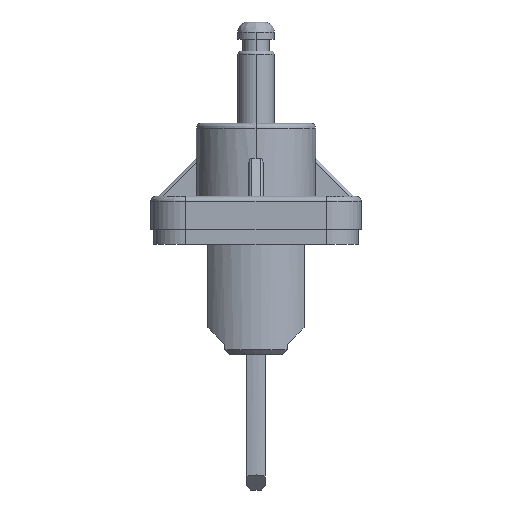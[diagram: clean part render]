
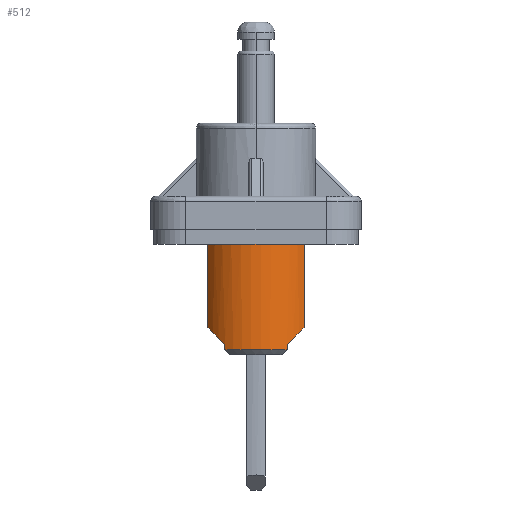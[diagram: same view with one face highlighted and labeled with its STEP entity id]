
A CAD part, left-side view. The second image highlights one B-rep face of the part: STEP entity #512.
In plain terms, the highlighted cylindrical face has radius 5.9 mm (diameter 11.8 mm), a partial arc.
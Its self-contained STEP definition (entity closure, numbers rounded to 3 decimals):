
#50 = DIRECTION ( 'NONE',  ( 0., 0., 1. ) ) ;
#157 = CARTESIAN_POINT ( 'NONE',  ( -4.23, -0.253, -11.05 ) ) ;
#238 = AXIS2_PLACEMENT_3D ( 'NONE', #6282, #3240, #1159 ) ;
#305 =( BOUNDED_CURVE ( )  B_SPLINE_CURVE ( 3, ( #1971, #4563, #1992, #5581 ),
 .UNSPECIFIED., .F., .T. ) 
 B_SPLINE_CURVE_WITH_KNOTS ( ( 4, 4 ),
 ( 5.266, 5.663 ),
 .UNSPECIFIED. ) 
 CURVE ( )  GEOMETRIC_REPRESENTATION_ITEM ( )  RATIONAL_B_SPLINE_CURVE ( ( 1., 0.987, 0.987, 1. ) ) 
 REPRESENTATION_ITEM ( '' )  );
#348 = VECTOR ( 'NONE', #50, 1000. ) ;
#390 = CARTESIAN_POINT ( 'NONE',  ( -9.25, 2.847, -11.55 ) ) ;
#509 = VERTEX_POINT ( 'NONE', #5758 ) ;
#512 = ADVANCED_FACE ( 'NONE', ( #2919 ), #5457, .T. ) ;
#673 = DIRECTION ( 'NONE',  ( 1., 0., 0. ) ) ;
#680 = CARTESIAN_POINT ( 'NONE',  ( -7.661, -5.053, -8.85 ) ) ;
#755 = CARTESIAN_POINT ( 'NONE',  ( -8.3, 4.09, -9.307 ) ) ;
#757 =( BOUNDED_CURVE ( )  B_SPLINE_CURVE ( 3, ( #4356, #755, #1781, #5350 ),
 .UNSPECIFIED., .F., .T. ) 
 B_SPLINE_CURVE_WITH_KNOTS ( ( 4, 4 ),
 ( 0.621, 1.018 ),
 .UNSPECIFIED. ) 
 CURVE ( )  GEOMETRIC_REPRESENTATION_ITEM ( )  RATIONAL_B_SPLINE_CURVE ( ( 1., 0.987, 0.987, 1. ) ) 
 REPRESENTATION_ITEM ( '' )  );
#898 = ORIENTED_EDGE ( 'NONE', *, *, #2390, .T. ) ;
#951 = VERTEX_POINT ( 'NONE', #4571 ) ;
#1006 = CARTESIAN_POINT ( 'NONE',  ( -9.25, -3.353, -11.05 ) ) ;
#1034 = EDGE_CURVE ( 'NONE', #951, #4716, #305, .T. ) ;
#1159 = DIRECTION ( 'NONE',  ( 1., 0., 0. ) ) ;
#1191 = LINE ( 'NONE', #390, #5111 ) ;
#1283 = ORIENTED_EDGE ( 'NONE', *, *, #1034, .T. ) ;
#1313 = CIRCLE ( 'NONE', #2916, 5.9 ) ;
#1338 = VECTOR ( 'NONE', #6305, 1000. ) ;
#1480 = ORIENTED_EDGE ( 'NONE', *, *, #2996, .T. ) ;
#1494 = ORIENTED_EDGE ( 'NONE', *, *, #3458, .T. ) ;
#1517 = CARTESIAN_POINT ( 'NONE',  ( -7.661, 4.547, -8.85 ) ) ;
#1781 = CARTESIAN_POINT ( 'NONE',  ( -8.837, 3.516, -9.881 ) ) ;
#1861 = CARTESIAN_POINT ( 'NONE',  ( -4.23, -0.253, -0.55 ) ) ;
#1971 = CARTESIAN_POINT ( 'NONE',  ( -9.25, -3.353, -10.55 ) ) ;
#1992 = CARTESIAN_POINT ( 'NONE',  ( -8.3, -4.596, -9.307 ) ) ;
#2136 = CARTESIAN_POINT ( 'NONE',  ( -7.661, -5.053, -8.85 ) ) ;
#2160 = CARTESIAN_POINT ( 'NONE',  ( -7.661, 4.547, -0.55 ) ) ;
#2211 = ORIENTED_EDGE ( 'NONE', *, *, #4609, .T. ) ;
#2248 = VERTEX_POINT ( 'NONE', #1006 ) ;
#2389 = DIRECTION ( 'NONE',  ( 1., 0., 0. ) ) ;
#2390 = EDGE_CURVE ( 'NONE', #509, #3719, #5077, .T. ) ;
#2545 = VERTEX_POINT ( 'NONE', #6261 ) ;
#2859 = EDGE_CURVE ( 'NONE', #3395, #2248, #1313, .T. ) ;
#2916 = AXIS2_PLACEMENT_3D ( 'NONE', #157, #3780, #673 ) ;
#2919 = FACE_OUTER_BOUND ( 'NONE', #6527, .T. ) ;
#2996 = EDGE_CURVE ( 'NONE', #6469, #3395, #1191, .T. ) ;
#3240 = DIRECTION ( 'NONE',  ( 0., 0., 1. ) ) ;
#3268 = CARTESIAN_POINT ( 'NONE',  ( -9.25, -3.353, -11.55 ) ) ;
#3395 = VERTEX_POINT ( 'NONE', #5214 ) ;
#3458 = EDGE_CURVE ( 'NONE', #2248, #951, #3938, .T. ) ;
#3502 = DIRECTION ( 'NONE',  ( 0., 0., -1. ) ) ;
#3623 = VECTOR ( 'NONE', #6116, 1000. ) ;
#3637 = CARTESIAN_POINT ( 'NONE',  ( -9.25, 2.847, -10.55 ) ) ;
#3719 = VERTEX_POINT ( 'NONE', #2160 ) ;
#3780 = DIRECTION ( 'NONE',  ( 0., 0., 1. ) ) ;
#3938 = LINE ( 'NONE', #3268, #1338 ) ;
#4318 = LINE ( 'NONE', #2136, #348 ) ;
#4356 = CARTESIAN_POINT ( 'NONE',  ( -7.661, 4.547, -8.85 ) ) ;
#4563 = CARTESIAN_POINT ( 'NONE',  ( -8.837, -4.022, -9.881 ) ) ;
#4571 = CARTESIAN_POINT ( 'NONE',  ( -9.25, -3.353, -10.55 ) ) ;
#4609 = EDGE_CURVE ( 'NONE', #4716, #509, #4318, .T. ) ;
#4716 = VERTEX_POINT ( 'NONE', #680 ) ;
#4823 = AXIS2_PLACEMENT_3D ( 'NONE', #1861, #5444, #2389 ) ;
#4950 = LINE ( 'NONE', #1517, #3623 ) ;
#5077 = CIRCLE ( 'NONE', #4823, 5.9 ) ;
#5111 = VECTOR ( 'NONE', #3502, 1000. ) ;
#5163 = ORIENTED_EDGE ( 'NONE', *, *, #5356, .T. ) ;
#5214 = CARTESIAN_POINT ( 'NONE',  ( -9.25, 2.847, -11.05 ) ) ;
#5350 = CARTESIAN_POINT ( 'NONE',  ( -9.25, 2.847, -10.55 ) ) ;
#5356 = EDGE_CURVE ( 'NONE', #2545, #6469, #757, .T. ) ;
#5444 = DIRECTION ( 'NONE',  ( 0., 0., -1. ) ) ;
#5457 = CYLINDRICAL_SURFACE ( 'NONE', #238, 5.9 ) ;
#5581 = CARTESIAN_POINT ( 'NONE',  ( -7.661, -5.053, -8.85 ) ) ;
#5657 = ORIENTED_EDGE ( 'NONE', *, *, #6437, .T. ) ;
#5758 = CARTESIAN_POINT ( 'NONE',  ( -7.661, -5.053, -0.55 ) ) ;
#6116 = DIRECTION ( 'NONE',  ( 0., 0., -1. ) ) ;
#6261 = CARTESIAN_POINT ( 'NONE',  ( -7.661, 4.547, -8.85 ) ) ;
#6282 = CARTESIAN_POINT ( 'NONE',  ( -4.23, -0.253, -11.55 ) ) ;
#6305 = DIRECTION ( 'NONE',  ( 0., 0., 1. ) ) ;
#6437 = EDGE_CURVE ( 'NONE', #3719, #2545, #4950, .T. ) ;
#6469 = VERTEX_POINT ( 'NONE', #3637 ) ;
#6527 = EDGE_LOOP ( 'NONE', ( #2211, #898, #5657, #5163, #1480, #6653, #1494, #1283 ) ) ;
#6653 = ORIENTED_EDGE ( 'NONE', *, *, #2859, .T. ) ;
